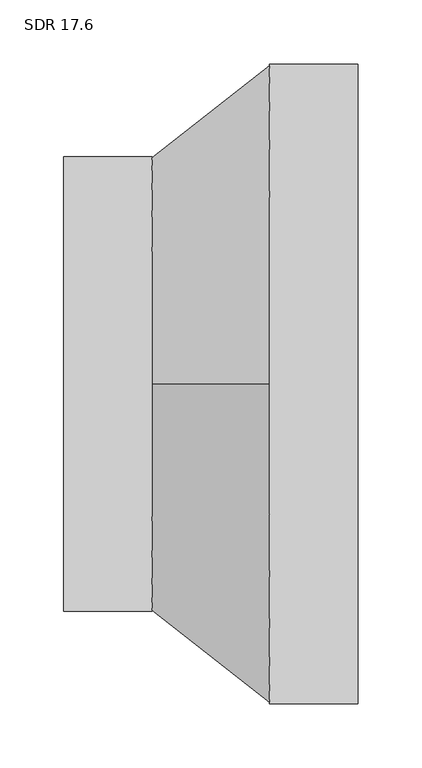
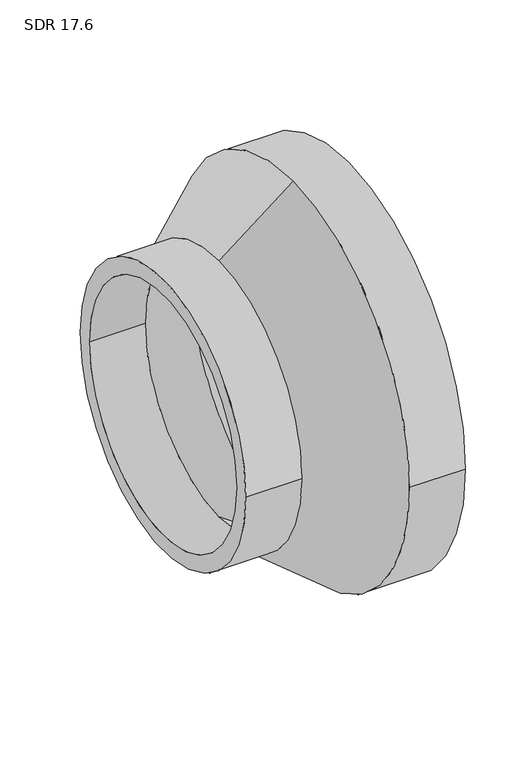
"""IFC4 building model written with IfcOpenShell, lengths in millimetres: pipe fitting geometry, Aquatherm - Reducing Coupling Combined - METRIC : SDR 17.6."""

from ifc_helpers import new_model, si_unit, frame, origin, place, context, project, spatial, polyline, circle_curve, source, transform, mapped, element, save
from ifc_brep_helpers import plane_surface, cylinder_surface, revolved_surface, advanced_brep


def sdr_17_6_4e28a08c(model_context):
    return source(origin(), model_context, "Body", "AdvancedBrep", [
        advanced_brep(
        [(-115.062, -177.8, 0.0), (-115.062, 177.8, 0.0), (-115.062, -157.5954545, 0.0), (-115.062, 157.5954545, 0.0), (-46.0248, 157.5954545, 0.0), (-46.0248, 0.0, 157.5954545), (-46.0248, -157.5954545, 0.0), (-46.0248, 0.0, -157.5954545), (-46.0248, 177.8, 0.0), (-46.0248, 0.0, -177.8), (-46.0248, -177.8, 0.0), (-46.0248, 0.0, 177.8), (115.062, -250.19, 0.0), (115.062, 250.19, 0.0), (115.062, -221.7593182, 0.0), (115.062, 221.7593182, 0.0), (46.0248, -250.19, 0.0), (46.0248, 0.0, -250.19), (46.0248, 250.19, 0.0), (46.0248, 0.0, 250.19), (46.0248, -221.7593182, 0.0), (46.0248, 0.0, 221.7593182), (46.0248, 221.7593182, 0.0), (46.0248, 0.0, -221.7593182)],
        [
            (0, 1, circle_curve(frame((-115.062, 0.0, 0.0), z_axis=(-1.0, 0.0, 0.0), x_axis=(0.0, 1.0, 0.0)), 177.8)),
            (1, 0, circle_curve(frame((-115.062, 0.0, 0.0), z_axis=(-1.0, 0.0, 0.0), x_axis=(0.0, 1.0, 0.0)), 177.8)),
            (2, 3, circle_curve(frame((-115.062, 0.0, 0.0), z_axis=(1.0, 0.0, 0.0), x_axis=(0.0, 1.0, 0.0)), 157.5954545)),
            (3, 2, circle_curve(frame((-115.062, 0.0, 0.0), z_axis=(1.0, 0.0, 0.0), x_axis=(0.0, 1.0, 0.0)), 157.5954545)),
            (3, 4),
            (4, 5, circle_curve(frame((-46.0248, 0.0, 0.0), z_axis=(1.0, 0.0, 0.0), x_axis=(0.0, 1.0, 0.0)), 157.5954545)),
            (5, 6, circle_curve(frame((-46.0248, 0.0, 0.0), z_axis=(1.0, 0.0, 0.0), x_axis=(0.0, 1.0, 0.0)), 157.5954545)),
            (6, 2),
            (6, 7, circle_curve(frame((-46.0248, 0.0, 0.0), z_axis=(1.0, 0.0, 0.0), x_axis=(0.0, 1.0, 0.0)), 157.5954545)),
            (7, 4, circle_curve(frame((-46.0248, 0.0, 0.0), z_axis=(1.0, 0.0, 0.0), x_axis=(0.0, 1.0, 0.0)), 157.5954545)),
            (1, 8),
            (8, 9, circle_curve(frame((-46.0248, 0.0, 0.0), z_axis=(-1.0, 0.0, 0.0), x_axis=(0.0, 1.0, 0.0)), 177.8)),
            (9, 10, circle_curve(frame((-46.0248, 0.0, 0.0), z_axis=(-1.0, 0.0, 0.0), x_axis=(0.0, 1.0, 0.0)), 177.8)),
            (10, 0),
            (10, 11, circle_curve(frame((-46.0248, 0.0, 0.0), z_axis=(-1.0, 0.0, 0.0), x_axis=(0.0, 1.0, 0.0)), 177.8)),
            (11, 8, circle_curve(frame((-46.0248, 0.0, 0.0), z_axis=(-1.0, 0.0, 0.0), x_axis=(0.0, 1.0, 0.0)), 177.8)),
            (12, 13, circle_curve(frame((115.062, 0.0, 0.0), z_axis=(1.0, 0.0, 0.0), x_axis=(0.0, 1.0, 0.0)), 250.19)),
            (13, 12, circle_curve(frame((115.062, 0.0, 0.0), z_axis=(1.0, 0.0, 0.0), x_axis=(0.0, 1.0, 0.0)), 250.19)),
            (14, 15, circle_curve(frame((115.062, 0.0, 0.0), z_axis=(-1.0, 0.0, 0.0), x_axis=(0.0, 1.0, 0.0)), 221.7593182)),
            (15, 14, circle_curve(frame((115.062, 0.0, 0.0), z_axis=(-1.0, 0.0, 0.0), x_axis=(0.0, 1.0, 0.0)), 221.7593182)),
            (12, 16),
            (16, 17, circle_curve(frame((46.0248, 0.0, 0.0), z_axis=(1.0, 0.0, 0.0), x_axis=(0.0, 1.0, 0.0)), 250.19)),
            (17, 18, circle_curve(frame((46.0248, 0.0, 0.0), z_axis=(1.0, 0.0, 0.0), x_axis=(0.0, 1.0, 0.0)), 250.19)),
            (18, 13),
            (18, 19, circle_curve(frame((46.0248, 0.0, 0.0), z_axis=(1.0, 0.0, 0.0), x_axis=(0.0, 1.0, 0.0)), 250.19)),
            (19, 16, circle_curve(frame((46.0248, 0.0, 0.0), z_axis=(1.0, 0.0, 0.0), x_axis=(0.0, 1.0, 0.0)), 250.19)),
            (14, 20),
            (20, 21, circle_curve(frame((46.0248, 0.0, 0.0), z_axis=(-1.0, 0.0, 0.0), x_axis=(0.0, 1.0, 0.0)), 221.7593182)),
            (21, 22, circle_curve(frame((46.0248, 0.0, 0.0), z_axis=(-1.0, 0.0, 0.0), x_axis=(0.0, 1.0, 0.0)), 221.7593182)),
            (22, 15),
            (22, 23, circle_curve(frame((46.0248, 0.0, 0.0), z_axis=(-1.0, 0.0, 0.0), x_axis=(0.0, 1.0, 0.0)), 221.7593182)),
            (23, 20, circle_curve(frame((46.0248, 0.0, 0.0), z_axis=(-1.0, 0.0, 0.0), x_axis=(0.0, 1.0, 0.0)), 221.7593182)),
            (11, 19),
            (17, 9),
            (21, 5),
            (7, 23),
        ],
        [
            plane_surface(frame((-115.062, 157.5954545, 0.0), z_axis=(-1.0, 0.0, 0.0), x_axis=(0.0, 0.0, 1.0))),
            revolved_surface(polyline([(-115.062, 157.5954545, 0.0), (-46.0248, 157.5954545, 0.0)]), (-115.062, 0.0, 0.0), (-1.0, 0.0, 0.0)),
            cylinder_surface(frame((0.0, 0.0, 0.0), z_axis=(1.0, 0.0, 0.0), x_axis=(0.0, 1.0, 0.0)), 177.8),
            plane_surface(frame((115.062, 250.19, 0.0), z_axis=(1.0, 0.0, 0.0), x_axis=(0.0, 0.0, 1.0))),
            cylinder_surface(frame((46.0248, 0.0, 0.0), z_axis=(1.0, 0.0, 0.0), x_axis=(0.0, 1.0, 0.0)), 250.19),
            revolved_surface(polyline([(46.0248, 221.7593182, 0.0), (115.062, 221.7593182, 0.0)]), (0.0, 0.0, 0.0), (-1.0, 0.0, 0.0)),
            revolved_surface(polyline([(46.0248, 0.0, 250.19), (-46.0248, 0.0, 177.8)]), (-690.3215384, 0.0, 0.0), (-1.0, 0.0, 0.0)),
            revolved_surface(polyline([(-46.0248, 0.0, 157.5954545), (46.0248, 0.0, 221.7593182)]), (-690.3215384, 0.0, 0.0), (-1.0, 0.0, 0.0)),
        ],
        [
            (0, [[1, 2], [3, 4]]),
            (1, [[-4, 5, 6, 7, 8]]),
            (1, [[-3, -8, 9, 10, -5]]),
            (2, [[-2, 11, 12, 13, 14]]),
            (2, [[-1, -14, 15, 16, -11]]),
            (3, [[17, 18], [19, 20]]),
            (4, [[-17, 21, 22, 23, 24]]),
            (4, [[-18, -24, 25, 26, -21]]),
            (5, [[-19, 27, 28, 29, 30]]),
            (5, [[-20, -30, 31, 32, -27]]),
            (6, [[33, -25, -23, 34, -12, -16]]),
            (6, [[-33, -15, -13, -34, -22, -26]]),
            (7, [[35, -6, -10, 36, -31, -29]]),
            (7, [[-35, -28, -32, -36, -9, -7]]),
        ],
    ),
    ])


if __name__ == "__main__":
    model = new_model("IFC4")
    model_context = context("Model", 3, world=origin())
    ifc_project = project(units=[si_unit("LENGTHUNIT", "METRE", prefix="MILLI")], contexts=[model_context])
    site = spatial("IfcSite", under=ifc_project)
    building = spatial("IfcBuilding", under=site)
    placement = place(None, origin())
    sdr_17_6_shape = sdr_17_6_4e28a08c(model_context)
    element("IfcPipeFitting", 1, ObjectType="Aquatherm - Reducing Coupling Combined - METRIC : SDR 17.6", at=placement, inside=building, context=model_context, shape_type="MappedRepresentation", body=[
        mapped(sdr_17_6_shape, transform((0.0, 0.0, 0.0), x_axis=(1.0, 0.0, 0.0), y_axis=(0.0, 1.0, 0.0), z_axis=(0.0, 0.0, 1.0))),
    ])
    save(model, "model.ifc")
